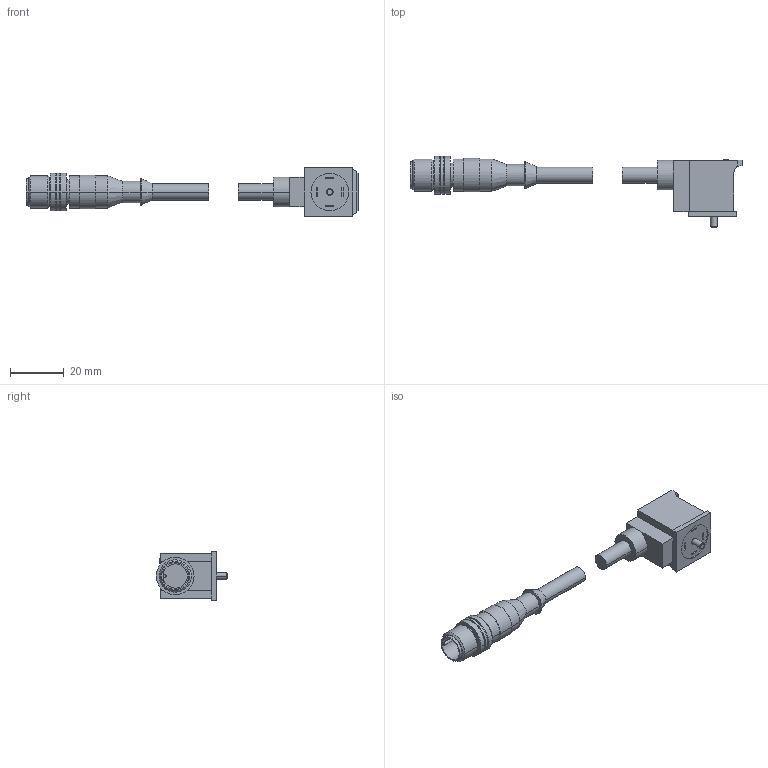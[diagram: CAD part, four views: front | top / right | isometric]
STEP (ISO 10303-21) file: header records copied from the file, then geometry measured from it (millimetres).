
FILE_DESCRIPTION( ( '' ), '1' );
FILE_NAME( '//partserver001.servicenet/client_exchange/iodir/jobs/output/wkb16339391_no0/STEP/e11426_2_03.stp', '2009-05-20T09:41:16', ( '' ), ( '' ), ' ', ' ', ' ' );
FILE_SCHEMA( ( 'CONFIG_CONTROL_DESIGN' ) );
Length unit declared in the file: millimetre
Products named in the file (2): 1; 2
Bounding box: 123.5 x 26.5 x 18 mm (x, y, z)
Volume: 12880.6 mm3; surface area: 5934 mm2
Topology: 2 solids, 2 shells, 132 faces, 294 edges, 187 vertices
Faces by surface type: plane 70, cylinder 46, cone 14, torus 2
Entity records: 3736 total; most frequent: DIRECTION 676, CARTESIAN_POINT 613, ORIENTED_EDGE 584, EDGE_CURVE 292, AXIS2_PLACEMENT_3D 250, VERTEX_POINT 187, LINE 176, VECTOR 176
